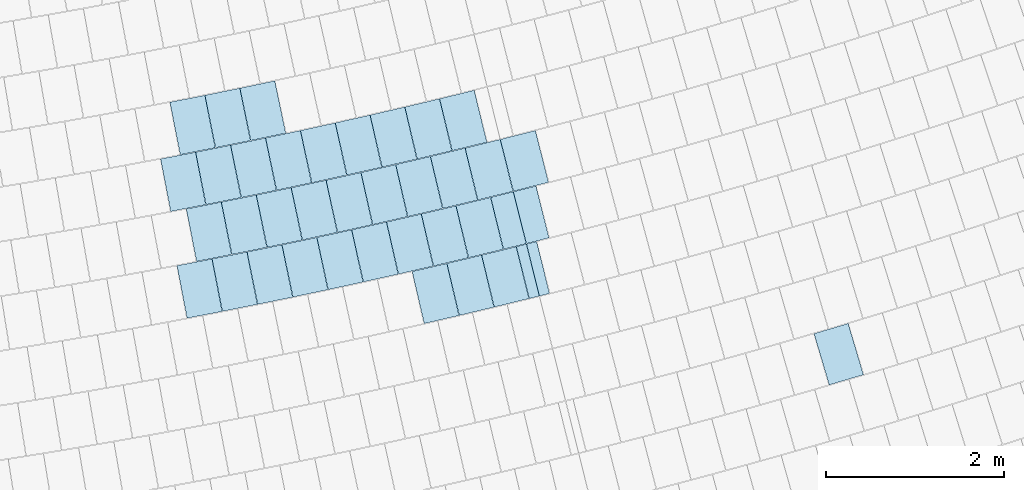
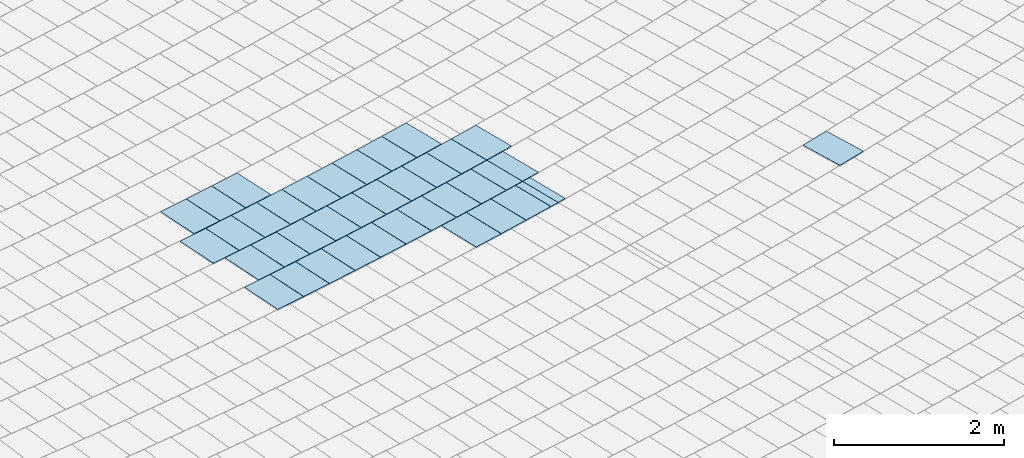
# One storey, part 50 of 438: 39 slabs.
"""IFC2X3 building model written with IfcOpenShell, lengths in millimetres."""

import ifcopenshell
import ifcopenshell.guid

model = None  # the IFC model being written
_history = None  # IfcOwnerHistory: only IFC2X3 demands one
_inside = {}  # id of a spatial element -> (the spatial element, [elements in it])
_under = {}  # id of a project, library or spatial element -> (it, [spatial elements below it])
_declared = {}  # id of a project -> (the project, [libraries it declares])
_typed = {}  # id of a type object -> (the type object, [elements of that type])
_made_of = {}  # id of a material, layer set ... -> (it, [elements and type objects made of it])


def new_model(schema):
    """Start an empty IFC model of exactly this schema.

    Asked for "IFC4X3", IfcOpenShell would pick the latest addendum, in which some entities
    have other attributes; the version numbers below select the first issue.
    IFC2X3 requires an IfcOwnerHistory on every rooted entity: one is made here for all.
    """
    global model, _history
    if schema == "IFC4X3":
        model = ifcopenshell.file(schema_version=(4, 3, 0, 0))
    else:
        model = ifcopenshell.file(schema=schema)
    _inside.clear()
    _under.clear()
    _declared.clear()
    _typed.clear()
    _made_of.clear()
    _history = None
    if model.schema == "IFC2X3":
        org = make("IfcOrganization", Name="unknown")
        user = make(
            "IfcPersonAndOrganization",
            ThePerson=make("IfcPerson", FamilyName="unknown"),
            TheOrganization=org,
        )
        app = make(
            "IfcApplication",
            ApplicationDeveloper=org,
            Version="unknown",
            ApplicationFullName="unknown",
            ApplicationIdentifier="unknown",
        )
        _history = make(
            "IfcOwnerHistory",
            OwningUser=user,
            OwningApplication=app,
            ChangeAction="ADDED",
            CreationDate=0,
        )
    return model


def make(cls, **values):
    """One entity of the class cls with the attributes given. An attribute that is None is left unset."""
    return model.create_entity(
        cls, **{name: value for name, value in values.items() if value is not None}
    )


def entity(cls, *values):
    """Any entity or typed value of the class cls, its attributes in the order of the schema. None: left unset."""
    e = model.create_entity(cls)
    for i, value in enumerate(values):
        if value is not None:
            e[i] = value
    return e


def rooted(cls, **values):
    """An entity with a GlobalId (a new one), such as an element, a storey or a relation."""
    return make(cls, GlobalId=ifcopenshell.guid.new(), OwnerHistory=_history, **values)


def si_unit(unit_type, name, prefix=None):
    """IfcSIUnit, for example si_unit("LENGTHUNIT", "METRE", prefix="MILLI")."""
    return make("IfcSIUnit", UnitType=unit_type, Prefix=prefix, Name=name)


def converted_unit(unit_type, name, factor, base, dimensions=None, offset=None):
    """IfcConversionBasedUnit, such as the inch: factor (a typed value) times the base unit."""
    return make(
        "IfcConversionBasedUnit"
        if offset is None
        else "IfcConversionBasedUnitWithOffset",
        ConversionOffset=offset,
        Dimensions=None
        if dimensions is None
        else entity("IfcDimensionalExponents", *dimensions),
        UnitType=unit_type,
        Name=name,
        ConversionFactor=make(
            "IfcMeasureWithUnit", ValueComponent=factor, UnitComponent=base
        ),
    )


def derived_unit(unit_type, elements):
    """IfcDerivedUnit: a product of units, each with its exponent."""
    return make(
        "IfcDerivedUnit",
        Elements=[
            make("IfcDerivedUnitElement", Unit=unit, Exponent=power)
            for unit, power in elements
        ],
        UnitType=unit_type,
    )


def assignment(units):
    """IfcUnitAssignment: the units of a project."""
    return None if units is None else make("IfcUnitAssignment", Units=units)


def point(xyz):
    """IfcCartesianPoint."""
    return None if xyz is None else make("IfcCartesianPoint", Coordinates=xyz)


def direction(xyz):
    """IfcDirection."""
    return None if xyz is None else make("IfcDirection", DirectionRatios=xyz)


def frame(location, z_axis=None, x_axis=None):
    """IfcAxis2Placement3D, a coordinate frame: its origin and axes. An axis left out is left unset."""
    return make(
        "IfcAxis2Placement3D",
        Location=point(location),
        Axis=direction(z_axis),
        RefDirection=direction(x_axis),
    )


def origin():
    """The frame at (0, 0, 0) with its axes left unset."""
    return frame((0.0, 0.0, 0.0))


def place(relative_to, where):
    """IfcLocalPlacement: puts the frame where relative to a parent placement (None: the world)."""
    return make(
        "IfcLocalPlacement", PlacementRelTo=relative_to, RelativePlacement=where
    )


def context(
    kind, dimensions, precision=None, world=None, true_north=None, identifier=None
):
    """IfcGeometricRepresentationContext, for example the 3D "Model" context."""
    return make(
        "IfcGeometricRepresentationContext",
        ContextIdentifier=identifier,
        ContextType=kind,
        CoordinateSpaceDimension=dimensions,
        Precision=precision,
        WorldCoordinateSystem=world,
        TrueNorth=true_north,
    )


def subcontext(parent, identifier, kind, view, scale=None):
    """IfcGeometricRepresentationSubContext, for example "Body" below "Model"."""
    return make(
        "IfcGeometricRepresentationSubContext",
        ContextIdentifier=identifier,
        ContextType=kind,
        ParentContext=parent,
        TargetScale=scale,
        TargetView=view,
    )


def project(units=None, contexts=None):
    """IfcProject with its units and contexts."""
    return rooted(
        "IfcProject",
        Name="project",
        RepresentationContexts=contexts,
        UnitsInContext=assignment(units),
    )


def spatial(cls, under=None, at=None, **own):
    """A site, building, storey or space (cls), placed at a placement, below another one or the project."""
    s = rooted(cls, ObjectPlacement=at, **own)
    if under is not None:
        _under.setdefault(under.id(), (under, []))[1].append(s)
    return s


def polyline(points):
    """IfcPolyline through the points."""
    return make("IfcPolyline", Points=[point(p) for p in points])


def outline(outer, holes=None, kind="AREA"):
    """IfcArbitraryClosedProfileDef: a profile drawn as a closed curve; with holes, ...WithVoids."""
    if holes is None:
        return make("IfcArbitraryClosedProfileDef", ProfileType=kind, OuterCurve=outer)
    return make(
        "IfcArbitraryProfileDefWithVoids",
        ProfileType=kind,
        OuterCurve=outer,
        InnerCurves=holes,
    )


def extrude(swept, where, along, depth):
    """IfcExtrudedAreaSolid: the profile swept, set in the frame where, extruded along a direction by depth."""
    return make(
        "IfcExtrudedAreaSolid",
        SweptArea=swept,
        Position=where,
        ExtrudedDirection=direction(along),
        Depth=depth,
    )


def shape(context_of_items, identifier, shape_type, items):
    """IfcShapeRepresentation: the items that make up one representation, for example the "Body"."""
    return make(
        "IfcShapeRepresentation",
        ContextOfItems=context_of_items,
        RepresentationIdentifier=identifier,
        RepresentationType=shape_type,
        Items=items,
    )


def material(Name=None, Category=None):
    """IfcMaterial."""
    return make("IfcMaterial", Name=Name, Category=Category)


def layer(
    of_material, thickness, ventilated=None, Name=None, Category=None, Priority=None
):
    """IfcMaterialLayer: one layer of a wall or slab, of a material (None: an air gap)."""
    return make(
        "IfcMaterialLayer",
        Material=of_material,
        LayerThickness=thickness,
        IsVentilated=ventilated,
        Name=Name,
        Category=Category,
        Priority=Priority,
    )


def layer_set(layers, Name=None):
    """IfcMaterialLayerSet."""
    return make("IfcMaterialLayerSet", MaterialLayers=layers, LayerSetName=Name)


def layer_usage(for_layer_set, set_direction, sense, offset, extent=None):
    """IfcMaterialLayerSetUsage: how a layer set lies in its element."""
    return make(
        "IfcMaterialLayerSetUsage",
        ForLayerSet=for_layer_set,
        LayerSetDirection=set_direction,
        DirectionSense=sense,
        OffsetFromReferenceLine=offset,
        ReferenceExtent=extent,
    )


def made_of(thing, what):
    """Note that an element or type object is made of a material, layer set ...; save() writes the relation."""
    if what is not None:
        _made_of.setdefault(what.id(), (what, []))[1].append(thing)
    return thing


def type_object(cls, material=None, **own):
    """A type object (cls), such as IfcWallType, which elements share."""
    return made_of(rooted(cls, **own), material)


def element(
    cls,
    number,
    at=None,
    inside=None,
    cuts=None,
    type_object=None,
    material=None,
    context=None,
    identifier="Body",
    shape_type=None,
    held_by="IfcProductDefinitionShape",
    body=None,
    shapes=None,
    **own,
):
    """One element of the class cls, such as IfcWall. Its Tag is "e" and its number.

    at: its placement. inside: the storey or other place that contains it. cuts: it is an
    opening in that element (IfcRelVoidsElement). A single representation is given by context,
    identifier, shape_type and body (its items); several are given by shapes. held_by: the class
    of the entity that holds the representations. save() writes the other relations.
    """
    e = rooted(cls, Tag="e%d" % number, ObjectPlacement=at, **own)
    if body is not None:
        shapes = [shape(context, identifier, shape_type, body)]
    if shapes is not None:
        e.Representation = make(held_by, Representations=shapes)
    if inside is not None:
        _inside.setdefault(inside.id(), (inside, []))[1].append(e)
    if cuts is not None:
        rooted(
            "IfcRelVoidsElement", RelatingBuildingElement=cuts, RelatedOpeningElement=e
        )
    if type_object is not None:
        _typed.setdefault(type_object.id(), (type_object, []))[1].append(e)
    return made_of(e, material)


def aggregate(whole, parts):
    """IfcRelAggregates: a whole, such as a stair, and the parts it consists of."""
    return rooted("IfcRelAggregates", RelatingObject=whole, RelatedObjects=parts)


def save(model, path):
    """Write the relations noted so far, then the file.

    IfcRelAggregates (storeys below a building ...), IfcRelContainedInSpatialStructure (elements
    in a storey), IfcRelDefinesByType, IfcRelAssociatesMaterial and IfcRelDeclares: one each for
    every whole, place, type object, material and project.
    """
    for whole, parts in _under.values():
        aggregate(whole, parts)
    for where, things in _inside.values():
        rooted(
            "IfcRelContainedInSpatialStructure",
            RelatedElements=things,
            RelatingStructure=where,
        )
    for kind, things in _typed.values():
        rooted("IfcRelDefinesByType", RelatedObjects=things, RelatingType=kind)
    for what, things in _made_of.values():
        rooted("IfcRelAssociatesMaterial", RelatedObjects=things, RelatingMaterial=what)
    for by, libraries in _declared.values():
        rooted("IfcRelDeclares", RelatingContext=by, RelatedDefinitions=libraries)
    model.write(path)


model = new_model("IFC2X3")

# Units and contexts
model_context = context("Model", 3, precision=0.01, world=origin(), true_north=direction((6.123031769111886e-17, 1.0)))
body_context = subcontext(model_context, "Body", "Model", "MODEL_VIEW")
ifc_project = project(units=[si_unit("LENGTHUNIT", "METRE", prefix="MILLI"), si_unit("AREAUNIT", "SQUARE_METRE"), si_unit("VOLUMEUNIT", "CUBIC_METRE"), converted_unit("PLANEANGLEUNIT", "DEGREE", entity("IfcRatioMeasure", 0.017453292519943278), si_unit("PLANEANGLEUNIT", "RADIAN"), dimensions=[0, 0, 0, 0, 0, 0, 0]), si_unit("MASSUNIT", "GRAM", prefix="KILO"), derived_unit("MASSDENSITYUNIT", [(si_unit("MASSUNIT", "GRAM", prefix="KILO"), 1), (si_unit("LENGTHUNIT", "METRE"), -3)]), derived_unit("MOMENTOFINERTIAUNIT", [(si_unit("LENGTHUNIT", "METRE"), 4)]), si_unit("TIMEUNIT", "SECOND"), si_unit("FREQUENCYUNIT", "HERTZ"), si_unit("THERMODYNAMICTEMPERATUREUNIT", "DEGREE_CELSIUS"), derived_unit("THERMALTRANSMITTANCEUNIT", [(si_unit("MASSUNIT", "GRAM", prefix="KILO"), 1), (si_unit("THERMODYNAMICTEMPERATUREUNIT", "KELVIN"), -1), (si_unit("TIMEUNIT", "SECOND"), -3)]), derived_unit("THERMALCONDUCTANCEUNIT", [(si_unit("MASSUNIT", "GRAM", prefix="KILO"), 1), (si_unit("LENGTHUNIT", "METRE"), 1), (si_unit("THERMODYNAMICTEMPERATUREUNIT", "KELVIN"), -1), (si_unit("TIMEUNIT", "SECOND"), -3)]), derived_unit("VOLUMETRICFLOWRATEUNIT", [(si_unit("LENGTHUNIT", "METRE"), 3), (si_unit("TIMEUNIT", "SECOND"), -1)]), derived_unit("MASSFLOWRATEUNIT", [(si_unit("MASSUNIT", "GRAM", prefix="KILO"), 1), (si_unit("TIMEUNIT", "SECOND"), -1)]), derived_unit("ROTATIONALFREQUENCYUNIT", [(si_unit("TIMEUNIT", "SECOND"), -1)]), si_unit("ELECTRICCURRENTUNIT", "AMPERE"), si_unit("ELECTRICVOLTAGEUNIT", "VOLT"), si_unit("POWERUNIT", "WATT"), converted_unit("FORCEUNIT", "KIP", entity("IfcRatioMeasure", 2.088543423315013e-05), si_unit("FORCEUNIT", "NEWTON"), dimensions=[1, 1, -2, 0, 0, 0, 0]), si_unit("ILLUMINANCEUNIT", "LUX"), si_unit("LUMINOUSFLUXUNIT", "LUMEN"), si_unit("LUMINOUSINTENSITYUNIT", "CANDELA"), derived_unit("USERDEFINED", [(si_unit("MASSUNIT", "GRAM", prefix="KILO"), -1), (si_unit("LENGTHUNIT", "METRE"), -2), (si_unit("TIMEUNIT", "SECOND"), 3), (si_unit("LUMINOUSFLUXUNIT", "LUMEN"), 1)]), derived_unit("USERDEFINED", [(si_unit("MASSUNIT", "GRAM", prefix="KILO"), 1), (si_unit("LENGTHUNIT", "METRE"), 3), (si_unit("TIMEUNIT", "SECOND"), -3), (si_unit("ELECTRICCURRENTUNIT", "AMPERE"), -2)]), derived_unit("USERDEFINED", [(si_unit("LENGTHUNIT", "METRE"), 2), (si_unit("TIMEUNIT", "SECOND"), -2)]), derived_unit("SOUNDPOWERUNIT", [(si_unit("MASSUNIT", "GRAM", prefix="KILO"), 1), (si_unit("LENGTHUNIT", "METRE"), 2), (si_unit("TIMEUNIT", "SECOND"), -3)]), derived_unit("SOUNDPRESSUREUNIT", [(si_unit("MASSUNIT", "GRAM", prefix="KILO"), 1), (si_unit("LENGTHUNIT", "METRE"), -1), (si_unit("TIMEUNIT", "SECOND"), -2)]), derived_unit("LINEARVELOCITYUNIT", [(si_unit("LENGTHUNIT", "METRE"), 1), (si_unit("TIMEUNIT", "SECOND"), -1)]), si_unit("PRESSUREUNIT", "PASCAL"), derived_unit("USERDEFINED", [(si_unit("LENGTHUNIT", "METRE"), -2), (si_unit("MASSUNIT", "GRAM", prefix="KILO"), 1), (si_unit("TIMEUNIT", "SECOND"), -2)]), derived_unit("LINEARFORCEUNIT", [(si_unit("MASSUNIT", "GRAM", prefix="KILO"), 1), (si_unit("LENGTHUNIT", "METRE"), 1), (si_unit("TIMEUNIT", "SECOND"), -2), (si_unit("LENGTHUNIT", "METRE"), -1)]), derived_unit("PLANARFORCEUNIT", [(si_unit("MASSUNIT", "GRAM", prefix="KILO"), 1), (si_unit("LENGTHUNIT", "METRE"), 1), (si_unit("TIMEUNIT", "SECOND"), -2), (si_unit("LENGTHUNIT", "METRE"), -2)]), derived_unit("SPECIFICHEATCAPACITYUNIT", [(si_unit("LENGTHUNIT", "METRE"), 2), (si_unit("TIMEUNIT", "SECOND"), -2), (si_unit("THERMODYNAMICTEMPERATUREUNIT", "KELVIN"), -1)]), derived_unit("VAPORPERMEABILITYUNIT", [(si_unit("TIMEUNIT", "SECOND"), 1), (si_unit("LENGTHUNIT", "METRE"), -1)]), derived_unit("DYNAMICVISCOSITYUNIT", [(si_unit("MASSUNIT", "GRAM", prefix="KILO"), 1), (si_unit("LENGTHUNIT", "METRE"), -1), (si_unit("TIMEUNIT", "SECOND"), -1)]), derived_unit("THERMALEXPANSIONCOEFFICIENTUNIT", [(si_unit("THERMODYNAMICTEMPERATUREUNIT", "KELVIN"), -1)])], contexts=[model_context])

# Site, building, storey
site_placement = place(None, frame((0.0, 0.0, 0.0), z_axis=(0.0, 0.0, 1.0), x_axis=(0.8191520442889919, 0.5735764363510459, 0.0)))
site = spatial("IfcSite", under=ifc_project, at=site_placement, Name="Default", CompositionType="ELEMENT")
building_placement = place(site_placement, origin())
building = spatial("IfcBuilding", under=site, at=building_placement, CompositionType="ELEMENT")
storey_placement = place(building_placement, origin())
storey = spatial("IfcBuildingStorey", under=building, at=storey_placement, Name="PLAN", CompositionType="ELEMENT", Elevation=0.0)

# Slabs
ifc_material = material(Name="Paint-01")
ifc_layer = layer(ifc_material, 20.00000000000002)
ifc_layer_set = layer_set([ifc_layer], Name="Floor:Slab-179:1000")
ifc_layer_usage = layer_usage(ifc_layer_set, "AXIS3", "POSITIVE", 0.0)
slab_type = type_object("IfcSlabType", Name="Floor:Slab-179:1000", PredefinedType="FLOOR", material=ifc_layer_set)
slab_1_placement = place(storey_placement, origin())
element("IfcSlab", 1, at=slab_1_placement, inside=storey, type_object=slab_type, material=ifc_layer_usage, Name="Floor:Slab-179:1000", ObjectType="Floor:Slab-179:1000", PredefinedType="FLOOR", context=body_context, shape_type="SweptSolid", body=[
    extrude(outline(polyline([(-300.0, -58.56624984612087), (300.0, -58.56624984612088), (300.0, 58.56624984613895), (-300.0, 58.566249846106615), (-300.0, -58.56624984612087)])), frame((-64955.975359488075, -132052.57469068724, 20.0), z_axis=(0.0, 0.0, -1.0), x_axis=(-0.3567780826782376, -0.9341891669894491, 0.0)), (0.0, 0.0, 1.0), 20.000000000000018),
])
slab_2_placement = place(storey_placement, origin())
element("IfcSlab", 2, at=slab_2_placement, inside=storey, type_object=slab_type, material=ifc_layer_usage, Name="Floor:Slab-179:1000", ObjectType="Floor:Slab-179:1000", PredefinedType="FLOOR", context=body_context, shape_type="SweptSolid", body=[
    extrude(outline(polyline([(-299.99999893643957, -200.0000029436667), (300.00000106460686, -200.0000029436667), (299.9999989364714, 200.0000029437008), (-300.00000106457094, 200.00000294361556), (-299.99999893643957, -200.0000029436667)])), frame((-65198.74220372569, -131958.6011857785, 20.0), z_axis=(0.0, 0.0, -1.0), x_axis=(-0.3622370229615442, -0.9320860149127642, 0.0)), (0.0, 0.0, 1.0), 20.00000000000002),
])
slab_3_placement = place(storey_placement, origin())
element("IfcSlab", 3, at=slab_3_placement, inside=storey, type_object=slab_type, material=ifc_layer_usage, Name="Floor:Slab-179:1000", ObjectType="Floor:Slab-179:1000", PredefinedType="FLOOR", context=body_context, shape_type="SweptSolid", body=[
    extrude(outline(polyline([(-299.999998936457, -200.00000294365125), (300.00000106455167, -200.0000029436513), (299.9999989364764, 200.0000029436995), (-300.00000106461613, 200.00000294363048), (-299.999998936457, -200.00000294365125)])), frame((-65945.96077152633, -131663.16626661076, 20.0), z_axis=(0.0, 0.0, -1.0), x_axis=(-0.37311752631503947, -0.9277840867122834, 0.0)), (0.0, 0.0, 1.0), 20.00000000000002),
])
slab_4_placement = place(storey_placement, origin())
element("IfcSlab", 4, at=slab_4_placement, inside=storey, type_object=slab_type, material=ifc_layer_usage, Name="Floor:Slab-179:1000", ObjectType="Floor:Slab-179:1000", PredefinedType="FLOOR", context=body_context, shape_type="SweptSolid", body=[
    extrude(outline(polyline([(-299.99999893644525, -200.0000029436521), (300.0000010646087, -200.0000029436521), (299.9999989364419, 200.00000294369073), (-300.00000106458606, 200.0000029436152), (-299.99999893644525, -200.0000029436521)])), frame((-65572.7835679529, -131811.97655044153, 20.0), z_axis=(0.0, 0.0, -1.0), x_axis=(-0.36768356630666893, -0.9299509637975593, 0.0)), (0.0, 0.0, 1.0), 20.00000000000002),
])
slab_5_placement = place(storey_placement, origin())
element("IfcSlab", 5, at=slab_5_placement, inside=storey, type_object=slab_type, material=ifc_layer_usage, Name="Floor:Slab-179:1000", ObjectType="Floor:Slab-179:1000", PredefinedType="FLOOR", context=body_context, shape_type="SweptSolid", body=[
    extrude(outline(polyline([(-299.9999993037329, -130.97564251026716), (300.0000006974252, -130.97564251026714), (299.99999930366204, 130.97564251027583), (-300.00000069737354, 130.9756425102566), (-299.9999993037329, -130.97564251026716)])), frame((-64806.902416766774, -131461.56763258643, 20.0), z_axis=(0.0, 0.0, -1.0), x_axis=(-0.35875360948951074, -0.9334322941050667, 0.0)), (0.0, 0.0, 1.0), 20.00000000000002),
])
slab_6_placement = place(storey_placement, origin())
element("IfcSlab", 6, at=slab_6_placement, inside=storey, type_object=slab_type, material=ifc_layer_usage, Name="Floor:Slab-179:1000", ObjectType="Floor:Slab-179:1000", PredefinedType="FLOOR", context=body_context, shape_type="SweptSolid", body=[
    extrude(outline(polyline([(-299.9999989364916, -200.0000029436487), (300.00000106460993, -200.00000294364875), (299.9999989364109, 200.00000294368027), (-300.00000106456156, 200.0000029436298), (-299.9999989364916, -200.0000029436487)])), frame((-65117.069964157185, -131341.08818682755, 20.0), z_axis=(0.0, 0.0, -1.0), x_axis=(-0.36425672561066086, -0.9312985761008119, 0.0)), (0.0, 0.0, 1.0), 20.00000000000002),
])
slab_7_placement = place(storey_placement, origin())
element("IfcSlab", 7, at=slab_7_placement, inside=storey, type_object=slab_type, material=ifc_layer_usage, Name="Floor:Slab-179:1000", ObjectType="Floor:Slab-179:1000", PredefinedType="FLOOR", context=body_context, shape_type="SweptSolid", body=[
    extrude(outline(polyline([(-299.999998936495, -200.00000294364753), (300.0000010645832, -200.00000294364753), (299.9999989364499, 200.0000029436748), (-300.0000010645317, 200.00000294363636), (-299.999998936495, -200.00000294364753)])), frame((-65490.803295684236, -131193.63756061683, 20.0), z_axis=(0.0, 0.0, -1.0), x_axis=(-0.36974715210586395, -0.9291324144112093, 0.0)), (0.0, 0.0, 1.0), 20.00000000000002),
])
slab_8_placement = place(storey_placement, origin())
element("IfcSlab", 8, at=slab_8_placement, inside=storey, type_object=slab_type, material=ifc_layer_usage, Name="Floor:Slab-179:1000", ObjectType="Floor:Slab-179:1000", PredefinedType="FLOOR", context=body_context, shape_type="SweptSolid", body=[
    extrude(outline(polyline([(-299.99999893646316, -200.00000294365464), (300.0000010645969, -200.00000294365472), (299.9999989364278, 200.0000029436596), (-300.000001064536, 200.00000294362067), (-299.99999893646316, -200.00000294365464)])), frame((-65863.65982461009, -131043.98362948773, 20.0), z_axis=(0.0, 0.0, -1.0), x_axis=(-0.37522469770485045, -0.9269338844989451, 0.0)), (0.0, 0.0, 1.0), 20.00000000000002),
])
slab_9_placement = place(storey_placement, origin())
element("IfcSlab", 9, at=slab_9_placement, inside=storey, type_object=slab_type, material=ifc_layer_usage, Name="Floor:Slab-179:1000", ObjectType="Floor:Slab-179:1000", PredefinedType="FLOOR", context=body_context, shape_type="SweptSolid", body=[
    extrude(outline(polyline([(-299.9999989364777, -200.00000294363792), (300.00000106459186, -200.00000294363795), (299.99999893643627, 200.00000294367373), (-300.00000106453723, 200.0000029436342), (-299.9999989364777, -200.00000294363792)])), frame((-66235.62656171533, -130892.13160694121, 20.0), z_axis=(0.0, 0.0, -1.0), x_axis=(-0.3806891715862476, -0.9247030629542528, 0.0)), (0.0, 0.0, 1.0), 20.000000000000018),
])
slab_10_placement = place(storey_placement, origin())
element("IfcSlab", 10, at=slab_10_placement, inside=storey, type_object=slab_type, material=ifc_layer_usage, Name="Floor:Slab-179:1000", ObjectType="Floor:Slab-179:1000", PredefinedType="FLOOR", context=body_context, shape_type="SweptSolid", body=[
    extrude(outline(polyline([(-299.9999989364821, -200.00000294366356), (300.00000106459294, -200.0000029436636), (299.9999989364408, 200.00000294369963), (-300.0000010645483, 200.0000029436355), (-299.9999989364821, -200.00000294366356)])), frame((-66606.69054878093, -130738.08678305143, 20.0), z_axis=(0.0, 0.0, -1.0), x_axis=(-0.3861403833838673, -0.9224400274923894, 0.0)), (0.0, 0.0, 1.0), 20.00000000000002),
])
slab_11_placement = place(storey_placement, origin())
element("IfcSlab", 11, at=slab_11_placement, inside=storey, type_object=slab_type, material=ifc_layer_usage, Name="Floor:Slab-179:1000", ObjectType="Floor:Slab-179:1000", PredefinedType="FLOOR", context=body_context, shape_type="SweptSolid", body=[
    extrude(outline(polyline([(-299.9999989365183, -200.00000294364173), (300.0000010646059, -200.00000294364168), (299.99999893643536, 200.00000294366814), (-300.0000010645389, 200.00000294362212), (-299.9999989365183, -200.00000294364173)])), frame((-67346.05859761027, -130423.44027330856, 20.0), z_axis=(0.0, 0.0, -1.0), x_axis=(-0.3970022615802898, -0.9178176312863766, 0.0)), (0.0, 0.0, 1.0), 20.00000000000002),
])
slab_12_placement = place(storey_placement, origin())
element("IfcSlab", 12, at=slab_12_placement, inside=storey, type_object=slab_type, material=ifc_layer_usage, Name="Floor:Slab-179:1000", ObjectType="Floor:Slab-179:1000", PredefinedType="FLOOR", context=body_context, shape_type="SweptSolid", body=[
    extrude(outline(polyline([(-299.99999893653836, -200.0000029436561), (300.0000010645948, -200.00000294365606), (299.9999989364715, 200.00000294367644), (-300.00000106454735, 200.00000294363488), (-299.99999893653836, -200.0000029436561)])), frame((-68081.66094241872, -130100.08794528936, 20.0), z_axis=(0.0, 0.0, -1.0), x_axis=(-0.407808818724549, -0.9130673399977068, 0.0)), (0.0, 0.0, 1.0), 20.00000000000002),
])
slab_13_placement = place(storey_placement, origin())
element("IfcSlab", 13, at=slab_13_placement, inside=storey, type_object=slab_type, material=ifc_layer_usage, Name="Floor:Slab-179:1000", ObjectType="Floor:Slab-179:1000", PredefinedType="FLOOR", context=body_context, shape_type="SweptSolid", body=[
    extrude(outline(polyline([(-299.99999893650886, -200.00000294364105), (300.00000106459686, -200.00000294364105), (299.99999893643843, 200.0000029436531), (-300.00000106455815, 200.00000294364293), (-299.99999893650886, -200.00000294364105)])), frame((-67714.33690197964, -130262.84954880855, 20.0), z_axis=(0.0, 0.0, -1.0), x_axis=(-0.4024125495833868, -0.9154584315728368, 0.0)), (0.0, 0.0, 1.0), 20.00000000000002),
])
slab_14_placement = place(storey_placement, origin())
element("IfcSlab", 14, at=slab_14_placement, inside=storey, type_object=slab_type, material=ifc_layer_usage, Name="Floor:Slab-179:1000", ObjectType="Floor:Slab-179:1000", PredefinedType="FLOOR", context=body_context, shape_type="SweptSolid", body=[
    extrude(outline(polyline([(-299.9999989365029, -200.0000029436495), (300.0000010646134, -200.00000294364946), (299.99999893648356, 200.0000029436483), (-300.000001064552, 200.000002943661), (-299.9999989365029, -200.0000029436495)])), frame((-66976.8388590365, -130581.85452428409, 20.0), z_axis=(0.0, 0.0, -1.0), x_axis=(-0.3915781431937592, -0.9201448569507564, 0.0)), (0.0, 0.0, 1.0), 20.000000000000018),
])
slab_15_placement = place(storey_placement, origin())
element("IfcSlab", 15, at=slab_15_placement, inside=storey, type_object=slab_type, material=ifc_layer_usage, Name="Floor:Slab-179:1000", ObjectType="Floor:Slab-179:1000", PredefinedType="FLOOR", context=body_context, shape_type="SweptSolid", body=[
    extrude(outline(polyline([(-299.9999989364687, -200.00000294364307), (300.000001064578, -200.00000294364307), (299.9999989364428, 200.00000294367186), (-300.0000010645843, 200.00000294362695), (-299.9999989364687, -200.00000294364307)])), frame((-65035.29000274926, -130723.2676570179, 20.0), z_axis=(0.0, 0.0, -1.0), x_axis=(-0.3663110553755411, -0.9304924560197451, 0.0)), (0.0, 0.0, 1.0), 20.00000000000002),
])
slab_16_placement = place(storey_placement, origin())
element("IfcSlab", 16, at=slab_16_placement, inside=storey, type_object=slab_type, material=ifc_layer_usage, Name="Floor:Slab-179:1000", ObjectType="Floor:Slab-179:1000", PredefinedType="FLOOR", context=body_context, shape_type="SweptSolid", body=[
    extrude(outline(polyline([(-299.999998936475, -200.0000029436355), (300.0000010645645, -200.00000294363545), (299.999998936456, 200.00000294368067), (-300.0000010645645, 200.00000294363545), (-299.999998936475, -200.0000029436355)])), frame((-65781.23599634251, -130424.46475483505, 20.0), z_axis=(0.0, 0.0, -1.0), x_axis=(-0.3773678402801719, -0.9260634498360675, 0.0)), (0.0, 0.0, 1.0), 20.00000000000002),
])
slab_17_placement = place(storey_placement, origin())
element("IfcSlab", 17, at=slab_17_placement, inside=storey, type_object=slab_type, material=ifc_layer_usage, Name="Floor:Slab-179:1000", ObjectType="Floor:Slab-179:1000", PredefinedType="FLOOR", context=body_context, shape_type="SweptSolid", body=[
    extrude(outline(polyline([(-299.9999989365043, -200.00000294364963), (300.0000010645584, -200.00000294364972), (299.99999893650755, 200.0000029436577), (-300.0000010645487, 200.00000294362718), (-299.9999989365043, -200.00000294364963)])), frame((-65408.7078784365, -130574.97682306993, 20.0), z_axis=(0.0, 0.0, -1.0), x_axis=(-0.37184604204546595, -0.9282944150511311, 0.0)), (0.0, 0.0, 1.0), 20.00000000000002),
])
slab_18_placement = place(storey_placement, origin())
element("IfcSlab", 18, at=slab_18_placement, inside=storey, type_object=slab_type, material=ifc_layer_usage, Name="Floor:Slab-179:1000", ObjectType="Floor:Slab-179:1000", PredefinedType="FLOOR", context=body_context, shape_type="SweptSolid", body=[
    extrude(outline(polyline([(-299.99999892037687, -203.02489121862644), (300.0000010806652, -203.0248912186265), (299.9999989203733, 203.02489121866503), (-300.00000108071, 203.02489121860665), (-299.99999892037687, -203.02489121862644)])), frame((-64658.17442875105, -130870.42326519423, 20.0), z_axis=(0.0, 0.0, -1.0), x_axis=(-0.36076307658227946, -0.9326574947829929, 0.0)), (0.0, 0.0, 1.0), 20.00000000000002),
])
slab_19_placement = place(storey_placement, origin())
element("IfcSlab", 19, at=slab_19_placement, inside=storey, type_object=slab_type, material=ifc_layer_usage, Name="Floor:Slab-179:1000", ObjectType="Floor:Slab-179:1000", PredefinedType="FLOOR", context=body_context, shape_type="SweptSolid", body=[
    extrude(outline(polyline([(-299.9999989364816, -200.0000029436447), (300.0000010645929, -200.00000294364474), (299.9999989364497, 200.00000294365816), (-300.00000106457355, 200.000002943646), (-299.9999989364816, -200.0000029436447)])), frame((-66523.57014033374, -130116.7983472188, 20.0), z_axis=(0.0, 0.0, -1.0), x_axis=(-0.38837108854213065, -0.92150306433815, 0.0)), (0.0, 0.0, 1.0), 20.000000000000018),
])
slab_20_placement = place(storey_placement, origin())
element("IfcSlab", 20, at=slab_20_placement, inside=storey, type_object=slab_type, material=ifc_layer_usage, Name="Floor:Slab-179:1000", ObjectType="Floor:Slab-179:1000", PredefinedType="FLOOR", context=body_context, shape_type="SweptSolid", body=[
    extrude(outline(polyline([(-299.9999989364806, -200.0000029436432), (300.0000010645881, -200.00000294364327), (299.9999989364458, 200.0000029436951), (-300.0000010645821, 200.00000294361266), (-299.9999989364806, -200.0000029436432)])), frame((-66152.86114384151, -130271.73679059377, 20.0), z_axis=(0.0, 0.0, -1.0), x_axis=(-0.3828762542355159, -0.9237996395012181, 0.0)), (0.0, 0.0, 1.0), 20.00000000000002),
])
slab_21_placement = place(storey_placement, origin())
element("IfcSlab", 21, at=slab_21_placement, inside=storey, type_object=slab_type, material=ifc_layer_usage, Name="Floor:Slab-179:1000", ObjectType="Floor:Slab-179:1000", PredefinedType="FLOOR", context=body_context, shape_type="SweptSolid", body=[
    extrude(outline(polyline([(-299.99999893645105, -200.00000294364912), (300.00000106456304, -200.00000294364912), (299.9999989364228, 200.0000029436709), (-300.00000106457, 200.00000294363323), (-299.99999893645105, -200.00000294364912)])), frame((-67262.18712082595, -129800.3120823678, 20.0), z_axis=(0.0, 0.0, -1.0), x_axis=(-0.399319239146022, -0.9168119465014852, 0.0)), (0.0, 0.0, 1.0), 20.000000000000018),
])
slab_22_placement = place(storey_placement, origin())
element("IfcSlab", 22, at=slab_22_placement, inside=storey, type_object=slab_type, material=ifc_layer_usage, Name="Floor:Slab-179:1000", ObjectType="Floor:Slab-179:1000", PredefinedType="FLOOR", context=body_context, shape_type="SweptSolid", body=[
    extrude(outline(polyline([(-299.999998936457, -200.00000294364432), (300.00000106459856, -200.00000294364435), (299.99999893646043, 200.0000029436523), (-300.000001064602, 200.00000294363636), (-299.999998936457, -200.00000294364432)])), frame((-66893.34983771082, -129959.65491998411, 20.0), z_axis=(0.0, 0.0, -1.0), x_axis=(-0.39385214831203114, -0.919173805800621, 0.0)), (0.0, 0.0, 1.0), 20.00000000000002),
])
slab_23_placement = place(storey_placement, origin())
element("IfcSlab", 23, at=slab_23_placement, inside=storey, type_object=slab_type, material=ifc_layer_usage, Name="Floor:Slab-179:1000", ObjectType="Floor:Slab-179:1000", PredefinedType="FLOOR", context=body_context, shape_type="SweptSolid", body=[
    extrude(outline(polyline([(-299.9999989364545, -200.00000294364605), (300.0000010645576, -200.00000294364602), (299.99999893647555, 200.00000294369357), (-300.00000106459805, 200.0000029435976), (-299.9999989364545, -200.00000294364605)])), frame((-67630.06890795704, -129638.77548585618, 20.0), z_axis=(0.0, 0.0, -1.0), x_axis=(-0.404772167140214, -0.9144175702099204, 0.0)), (0.0, 0.0, 1.0), 20.00000000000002),
])
slab_24_placement = place(storey_placement, origin())
element("IfcSlab", 24, at=slab_24_placement, inside=storey, type_object=slab_type, material=ifc_layer_usage, Name="Floor:Slab-179:1000", ObjectType="Floor:Slab-179:1000", PredefinedType="FLOOR", context=body_context, shape_type="SweptSolid", body=[
    extrude(outline(polyline([(-299.99999893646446, -200.00000294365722), (300.00000106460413, -200.0000029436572), (299.9999989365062, 200.00000294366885), (-300.00000106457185, 200.00000294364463), (-299.99999893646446, -200.00000294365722)])), frame((-64579.41437324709, -130252.03223787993, 20.0), z_axis=(0.0, 0.0, -1.0), x_axis=(-0.3628073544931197, -0.9318641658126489, 0.0)), (0.0, 0.0, 1.0), 20.000000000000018),
])
slab_25_placement = place(storey_placement, origin())
element("IfcSlab", 25, at=slab_25_placement, inside=storey, type_object=slab_type, material=ifc_layer_usage, Name="Floor:Slab-179:1000", ObjectType="Floor:Slab-179:1000", PredefinedType="FLOOR", context=body_context, shape_type="SweptSolid", body=[
    extrude(outline(polyline([(-299.99999893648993, -200.0000029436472), (300.00000106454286, -200.0000029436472), (299.99999893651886, 200.00000294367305), (-300.00000106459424, 200.00000294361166), (-299.99999893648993, -200.0000029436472)])), frame((-64953.39868000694, -130105.13144320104, 20.0), z_axis=(0.0, 0.0, -1.0), x_axis=(-0.36840089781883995, -0.9296670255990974, 0.0)), (0.0, 0.0, 1.0), 20.000000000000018),
])
slab_26_placement = place(storey_placement, origin())
element("IfcSlab", 26, at=slab_26_placement, inside=storey, type_object=slab_type, material=ifc_layer_usage, Name="Floor:Slab-179:1000", ObjectType="Floor:Slab-179:1000", PredefinedType="FLOOR", context=body_context, shape_type="SweptSolid", body=[
    extrude(outline(polyline([(-299.99999893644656, -200.0000029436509), (300.000001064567, -200.00000294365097), (299.9999989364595, 200.00000294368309), (-300.0000010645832, 200.00000294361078), (-299.99999893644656, -200.0000029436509)])), frame((-65326.49342419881, -129955.98581961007, 20.0), z_axis=(0.0, 0.0, -1.0), x_axis=(-0.3739811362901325, -0.9274363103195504, 0.0)), (0.0, 0.0, 1.0), 20.00000000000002),
])
slab_27_placement = place(storey_placement, origin())
element("IfcSlab", 27, at=slab_27_placement, inside=storey, type_object=slab_type, material=ifc_layer_usage, Name="Floor:Slab-179:1000", ObjectType="Floor:Slab-179:1000", PredefinedType="FLOOR", context=body_context, shape_type="SweptSolid", body=[
    extrude(outline(polyline([(-299.9999989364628, -200.0000029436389), (300.00000106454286, -200.00000294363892), (299.99999893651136, 200.0000029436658), (-300.00000106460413, 200.00000294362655), (-299.9999989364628, -200.0000029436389)])), frame((-65698.68513144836, -129804.60075352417, 20.0), z_axis=(0.0, 0.0, -1.0), x_axis=(-0.37954786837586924, -0.9251721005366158, 0.0)), (0.0, 0.0, 1.0), 20.00000000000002),
])
slab_28_placement = place(storey_placement, origin())
element("IfcSlab", 28, at=slab_28_placement, inside=storey, type_object=slab_type, material=ifc_layer_usage, Name="Floor:Slab-179:1000", ObjectType="Floor:Slab-179:1000", PredefinedType="FLOOR", context=body_context, shape_type="SweptSolid", body=[
    extrude(outline(polyline([(-299.99999893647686, -200.00000294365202), (300.0000010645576, -200.00000294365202), (299.99999893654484, 200.00000294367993), (-300.0000010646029, 200.00000294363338), (-299.99999893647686, -200.00000294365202)])), frame((-66069.9603599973, -129650.9817122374, 20.0), z_axis=(0.0, 0.0, -1.0), x_axis=(-0.38510089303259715, -0.9228744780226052, 0.0)), (0.0, 0.0, 1.0), 20.00000000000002),
])
slab_29_placement = place(storey_placement, origin())
element("IfcSlab", 29, at=slab_29_placement, inside=storey, type_object=slab_type, material=ifc_layer_usage, Name="Floor:Slab-179:1000", ObjectType="Floor:Slab-179:1000", PredefinedType="FLOOR", context=body_context, shape_type="SweptSolid", body=[
    extrude(outline(polyline([(-299.99999893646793, -200.00000294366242), (300.0000010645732, -200.00000294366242), (299.9999989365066, 200.0000029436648), (-300.00000106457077, 200.00000294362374), (-299.99999893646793, -200.00000294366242)])), frame((-66440.3057011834, -129495.13424372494, 20.0), z_axis=(0.0, 0.0, -1.0), x_axis=(-0.39064000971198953, -0.9205435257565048, 0.0)), (0.0, 0.0, 1.0), 20.00000000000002),
])
slab_30_placement = place(storey_placement, origin())
element("IfcSlab", 30, at=slab_30_placement, inside=storey, type_object=slab_type, material=ifc_layer_usage, Name="Floor:Slab-179:1000", ObjectType="Floor:Slab-179:1000", PredefinedType="FLOOR", context=body_context, shape_type="SweptSolid", body=[
    extrude(outline(polyline([(-299.9999989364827, -200.0000029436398), (300.00000106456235, -200.0000029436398), (299.99999893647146, 200.00000294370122), (-300.0000010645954, 200.0000029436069), (-299.9999989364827, -200.0000029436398)])), frame((-66809.70777992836, -129337.06397644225, 20.0), z_axis=(0.0, 0.0, -1.0), x_axis=(-0.3961650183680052, -0.9181793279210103, 0.0)), (0.0, 0.0, 1.0), 20.000000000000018),
])
slab_31_placement = place(storey_placement, origin())
element("IfcSlab", 31, at=slab_31_placement, inside=storey, type_object=slab_type, material=ifc_layer_usage, Name="Floor:Slab-179:1000", ObjectType="Floor:Slab-179:1000", PredefinedType="FLOOR", context=body_context, shape_type="SweptSolid", body=[
    extrude(outline(polyline([(-299.9999989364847, -200.00000294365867), (300.00000106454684, -200.0000029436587), (299.9999989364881, 200.0000029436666), (-300.0000010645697, 200.00000294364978), (-299.9999989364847, -200.00000294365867)])), frame((-67178.1532552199, -129176.77661912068, 20.0), z_axis=(0.0, 0.0, -1.0), x_axis=(-0.4016757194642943, -0.9157819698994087, 0.0)), (0.0, 0.0, 1.0), 20.00000000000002),
])
slab_32_placement = place(storey_placement, origin())
element("IfcSlab", 32, at=slab_32_placement, inside=storey, type_object=slab_type, material=ifc_layer_usage, Name="Floor:Slab-179:1000", ObjectType="Floor:Slab-179:1000", PredefinedType="FLOOR", context=body_context, shape_type="SweptSolid", body=[
    extrude(outline(polyline([(-299.9999989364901, -200.00000294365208), (300.00000106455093, -200.00000294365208), (299.9999989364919, 200.00000294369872), (-300.0000010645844, 200.0000029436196), (-299.9999989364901, -200.00000294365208)])), frame((-67545.62882059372, -129014.27796056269, 20.0), z_axis=(0.0, 0.0, -1.0), x_axis=(-0.4071719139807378, -0.913351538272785, 0.0)), (0.0, 0.0, 1.0), 20.00000000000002),
])
slab_33_placement = place(storey_placement, origin())
element("IfcSlab", 33, at=slab_33_placement, inside=storey, type_object=slab_type, material=ifc_layer_usage, Name="Floor:Slab-179:1000", ObjectType="Floor:Slab-179:1000", PredefinedType="FLOOR", context=body_context, shape_type="SweptSolid", body=[
    extrude(outline(polyline([(-299.9999989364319, -200.0000029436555), (300.0000010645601, -200.0000029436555), (299.99999893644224, 200.00000294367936), (-300.00000106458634, 200.00000294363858), (-299.9999989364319, -200.0000029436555)])), frame((-66725.90745519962, -128714.07130587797, 20.0), z_axis=(0.0, 0.0, -1.0), x_axis=(-0.3985177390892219, -0.9171606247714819, 0.0)), (0.0, 0.0, 1.0), 20.00000000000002),
])
slab_34_placement = place(storey_placement, origin())
element("IfcSlab", 34, at=slab_34_placement, inside=storey, type_object=slab_type, material=ifc_layer_usage, Name="Floor:Slab-179:1000", ObjectType="Floor:Slab-179:1000", PredefinedType="FLOOR", context=body_context, shape_type="SweptSolid", body=[
    extrude(outline(polyline([(-299.9999989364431, -200.00000294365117), (300.0000010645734, -200.00000294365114), (299.9999989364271, 200.00000294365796), (-300.00000106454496, 200.00000294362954), (-299.9999989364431, -200.00000294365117)])), frame((-66356.89231045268, -128873.08448526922, 20.0), z_axis=(0.0, 0.0, -1.0), x_axis=(-0.39294811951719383, -0.9195606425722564, 0.0)), (0.0, 0.0, 1.0), 20.00000000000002),
])
slab_35_placement = place(storey_placement, origin())
element("IfcSlab", 35, at=slab_35_placement, inside=storey, type_object=slab_type, material=ifc_layer_usage, Name="Floor:Slab-179:1000", ObjectType="Floor:Slab-179:1000", PredefinedType="FLOOR", context=body_context, shape_type="SweptSolid", body=[
    extrude(outline(polyline([(-299.99999893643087, -200.00000294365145), (300.0000010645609, -200.0000029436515), (299.9999989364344, 200.00000294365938), (-300.00000106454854, 200.0000029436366), (-299.99999893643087, -200.00000294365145)])), frame((-67093.95144870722, -128552.82309002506, 20.0), z_axis=(0.0, 0.0, -1.0), x_axis=(-0.40407270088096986, -0.9147268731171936, 0.0)), (0.0, 0.0, 1.0), 20.000000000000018),
])
slab_36_placement = place(storey_placement, origin())
element("IfcSlab", 36, at=slab_36_placement, inside=storey, type_object=slab_type, material=ifc_layer_usage, Name="Floor:Slab-179:1000", ObjectType="Floor:Slab-179:1000", PredefinedType="FLOOR", context=body_context, shape_type="SweptSolid", body=[
    extrude(outline(polyline([(-300.00000108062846, -203.02489121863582), (299.999998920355, -203.02489121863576), (300.00000108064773, 203.02489121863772), (-299.99999892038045, 203.02489121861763), (-300.00000108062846, -203.02489121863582)])), frame((-64277.30447366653, -131016.40664805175, 20.0), z_axis=(0.0, 0.0, -1.0), x_axis=(-0.35503389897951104, -0.9348534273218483, 0.0)), (0.0, 0.0, 1.0), 20.00000000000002),
])
slab_37_placement = place(storey_placement, origin())
element("IfcSlab", 37, at=slab_37_placement, inside=storey, type_object=slab_type, material=ifc_layer_usage, Name="Floor:Slab-179:1000", ObjectType="Floor:Slab-179:1000", PredefinedType="FLOOR", context=body_context, shape_type="SweptSolid", body=[
    extrude(outline(polyline([(-300.00000069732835, -130.9756425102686), (299.99999930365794, -130.9756425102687), (300.0000006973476, 130.97564251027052), (-299.99999930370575, 130.9756425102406), (-300.00000069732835, -130.9756425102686)])), frame((-64561.79077279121, -131555.51630584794, 20.0), z_axis=(0.0, 0.0, -1.0), x_axis=(-0.357046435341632, -0.9340866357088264, 0.0)), (0.0, 0.0, 1.0), 20.00000000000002),
])
slab_38_placement = place(storey_placement, origin())
element("IfcSlab", 38, at=slab_38_placement, inside=storey, type_object=slab_type, material=ifc_layer_usage, Name="Floor:Slab-179:1000", ObjectType="Floor:Slab-179:1000", PredefinedType="FLOOR", context=body_context, shape_type="SweptSolid", body=[
    extrude(outline(polyline([(-300.0, -58.566249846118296), (300.0, -58.56624984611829), (300.0, 58.56624984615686), (-300.0, 58.56624984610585), (-300.0, -58.566249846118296)])), frame((-64845.92871389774, -132094.75439370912, 20.0), z_axis=(0.0, 0.0, -1.0), x_axis=(-0.3590217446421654, -0.933329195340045, 0.0)), (0.0, 0.0, 1.0), 20.00000000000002),
])
slab_39_placement = place(storey_placement, origin())
element("IfcSlab", 39, at=slab_39_placement, inside=storey, type_object=slab_type, material=ifc_layer_usage, Name="Floor:Slab-179:1000", ObjectType="Floor:Slab-179:1000", PredefinedType="FLOOR", context=body_context, shape_type="SweptSolid", body=[
    extrude(outline(polyline([(-300.0000010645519, -200.00000294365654), (299.9999989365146, -200.0000029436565), (300.0000010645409, 200.00000294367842), (-299.99999893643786, 200.00000294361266), (-300.0000010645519, -200.00000294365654)])), frame((-62633.57976115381, -134813.41964813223, 20.0), z_axis=(0.0, 0.0, -1.0), x_axis=(-0.3165195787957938, -0.9485859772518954, 0.0)), (0.0, 0.0, 1.0), 20.00000000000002),
])

save(model, "model.ifc")
